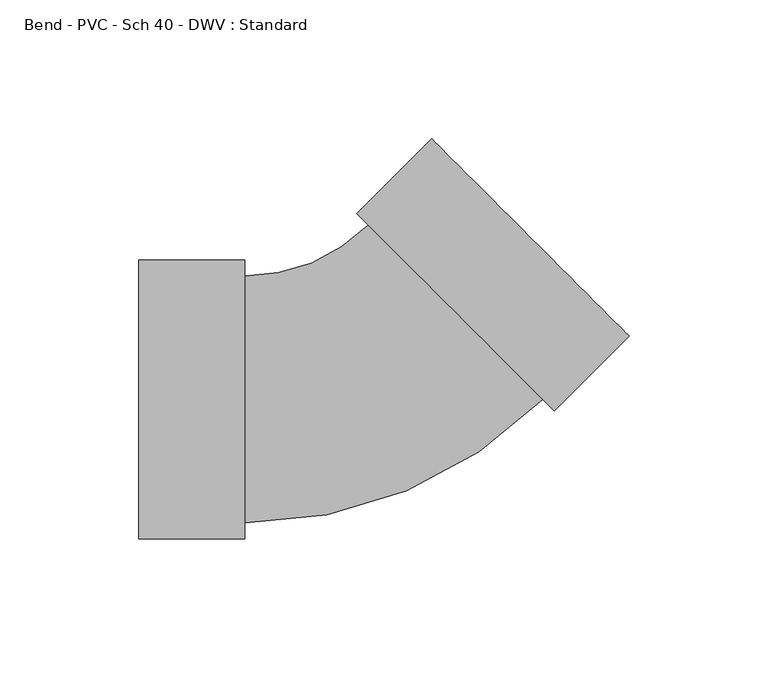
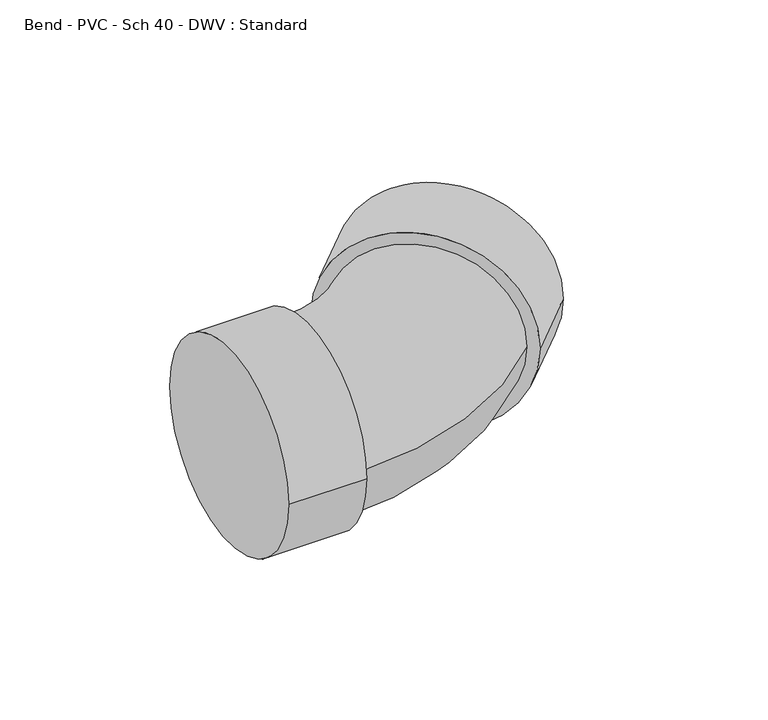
"""IFC4 building model written with IfcOpenShell, lengths in millimetres: pipe fitting geometry, Bend - PVC - Sch 40 - DWV : Standard."""

import ifcopenshell
import ifcopenshell.guid

model = None  # the IFC model being written
_history = None  # IfcOwnerHistory: only IFC2X3 demands one
_inside = {}  # id of a spatial element -> (the spatial element, [elements in it])
_under = {}  # id of a project, library or spatial element -> (it, [spatial elements below it])
_declared = {}  # id of a project -> (the project, [libraries it declares])
_typed = {}  # id of a type object -> (the type object, [elements of that type])
_made_of = {}  # id of a material, layer set ... -> (it, [elements and type objects made of it])


def new_model(schema):
    """Start an empty IFC model of exactly this schema.

    Asked for "IFC4X3", IfcOpenShell would pick the latest addendum, in which some entities
    have other attributes; the version numbers below select the first issue.
    IFC2X3 requires an IfcOwnerHistory on every rooted entity: one is made here for all.
    """
    global model, _history
    if schema == "IFC4X3":
        model = ifcopenshell.file(schema_version=(4, 3, 0, 0))
    else:
        model = ifcopenshell.file(schema=schema)
    _inside.clear()
    _under.clear()
    _declared.clear()
    _typed.clear()
    _made_of.clear()
    _history = None
    if model.schema == "IFC2X3":
        org = make("IfcOrganization", Name="unknown")
        user = make(
            "IfcPersonAndOrganization",
            ThePerson=make("IfcPerson", FamilyName="unknown"),
            TheOrganization=org,
        )
        app = make(
            "IfcApplication",
            ApplicationDeveloper=org,
            Version="unknown",
            ApplicationFullName="unknown",
            ApplicationIdentifier="unknown",
        )
        _history = make(
            "IfcOwnerHistory",
            OwningUser=user,
            OwningApplication=app,
            ChangeAction="ADDED",
            CreationDate=0,
        )
    return model


def make(cls, **values):
    """One entity of the class cls with the attributes given. An attribute that is None is left unset."""
    return model.create_entity(
        cls, **{name: value for name, value in values.items() if value is not None}
    )


def rooted(cls, **values):
    """An entity with a GlobalId (a new one), such as an element, a storey or a relation."""
    return make(cls, GlobalId=ifcopenshell.guid.new(), OwnerHistory=_history, **values)


def si_unit(unit_type, name, prefix=None):
    """IfcSIUnit, for example si_unit("LENGTHUNIT", "METRE", prefix="MILLI")."""
    return make("IfcSIUnit", UnitType=unit_type, Prefix=prefix, Name=name)


def assignment(units):
    """IfcUnitAssignment: the units of a project."""
    return None if units is None else make("IfcUnitAssignment", Units=units)


def point(xyz):
    """IfcCartesianPoint."""
    return None if xyz is None else make("IfcCartesianPoint", Coordinates=xyz)


def direction(xyz):
    """IfcDirection."""
    return None if xyz is None else make("IfcDirection", DirectionRatios=xyz)


def frame(location, z_axis=None, x_axis=None):
    """IfcAxis2Placement3D, a coordinate frame: its origin and axes. An axis left out is left unset."""
    return make(
        "IfcAxis2Placement3D",
        Location=point(location),
        Axis=direction(z_axis),
        RefDirection=direction(x_axis),
    )


def origin():
    """The frame at (0, 0, 0) with its axes left unset."""
    return frame((0.0, 0.0, 0.0))


def place(relative_to, where):
    """IfcLocalPlacement: puts the frame where relative to a parent placement (None: the world)."""
    return make(
        "IfcLocalPlacement", PlacementRelTo=relative_to, RelativePlacement=where
    )


def context(
    kind, dimensions, precision=None, world=None, true_north=None, identifier=None
):
    """IfcGeometricRepresentationContext, for example the 3D "Model" context."""
    return make(
        "IfcGeometricRepresentationContext",
        ContextIdentifier=identifier,
        ContextType=kind,
        CoordinateSpaceDimension=dimensions,
        Precision=precision,
        WorldCoordinateSystem=world,
        TrueNorth=true_north,
    )


def project(units=None, contexts=None):
    """IfcProject with its units and contexts."""
    return rooted(
        "IfcProject",
        Name="project",
        RepresentationContexts=contexts,
        UnitsInContext=assignment(units),
    )


def spatial(cls, under=None, at=None, **own):
    """A site, building, storey or space (cls), placed at a placement, below another one or the project."""
    s = rooted(cls, ObjectPlacement=at, **own)
    if under is not None:
        _under.setdefault(under.id(), (under, []))[1].append(s)
    return s


def circle_curve(where, radius):
    """IfcCircle in the frame where."""
    return make("IfcCircle", Position=where, Radius=radius)


def ellipse_curve(where, semi_axis1, semi_axis2):
    """IfcEllipse in the frame where."""
    return make(
        "IfcEllipse", Position=where, SemiAxis1=semi_axis1, SemiAxis2=semi_axis2
    )


def trimmed(basis, trim1, trim2, sense, master):
    """IfcTrimmedCurve: the piece of a basis curve between two trims."""
    return make(
        "IfcTrimmedCurve",
        BasisCurve=basis,
        Trim1=trim1,
        Trim2=trim2,
        SenseAgreement=sense,
        MasterRepresentation=master,
    )


def shape(context_of_items, identifier, shape_type, items):
    """IfcShapeRepresentation: the items that make up one representation, for example the "Body"."""
    return make(
        "IfcShapeRepresentation",
        ContextOfItems=context_of_items,
        RepresentationIdentifier=identifier,
        RepresentationType=shape_type,
        Items=items,
    )


def source(mapping_origin, context_of_items, identifier, shape_type, items):
    """IfcRepresentationMap: a shape defined once, which mapped items show again and again."""
    return make(
        "IfcRepresentationMap",
        MappingOrigin=mapping_origin,
        MappedRepresentation=shape(context_of_items, identifier, shape_type, items),
    )


def transform(
    local_origin,
    x_axis=None,
    y_axis=None,
    z_axis=None,
    scale=None,
    scale2=None,
    scale3=None,
    uniform=True,
):
    """IfcCartesianTransformationOperator3D, or its non-uniform kind. x_axis, y_axis, z_axis: its Axis1, 2, 3."""
    if uniform:
        return make(
            "IfcCartesianTransformationOperator3D",
            Axis1=direction(x_axis),
            Axis2=direction(y_axis),
            LocalOrigin=point(local_origin),
            Scale=scale,
            Axis3=direction(z_axis),
        )
    return make(
        "IfcCartesianTransformationOperator3DnonUniform",
        Axis1=direction(x_axis),
        Axis2=direction(y_axis),
        LocalOrigin=point(local_origin),
        Scale=scale,
        Axis3=direction(z_axis),
        Scale2=scale2,
        Scale3=scale3,
    )


def mapped(mapping_source, mapping_target):
    """IfcMappedItem: shows the shape of a source again, moved by a transform."""
    return make(
        "IfcMappedItem", MappingSource=mapping_source, MappingTarget=mapping_target
    )


def made_of(thing, what):
    """Note that an element or type object is made of a material, layer set ...; save() writes the relation."""
    if what is not None:
        _made_of.setdefault(what.id(), (what, []))[1].append(thing)
    return thing


def element(
    cls,
    number,
    at=None,
    inside=None,
    cuts=None,
    type_object=None,
    material=None,
    context=None,
    identifier="Body",
    shape_type=None,
    held_by="IfcProductDefinitionShape",
    body=None,
    shapes=None,
    **own,
):
    """One element of the class cls, such as IfcWall. Its Tag is "e" and its number.

    at: its placement. inside: the storey or other place that contains it. cuts: it is an
    opening in that element (IfcRelVoidsElement). A single representation is given by context,
    identifier, shape_type and body (its items); several are given by shapes. held_by: the class
    of the entity that holds the representations. save() writes the other relations.
    """
    e = rooted(cls, Tag="e%d" % number, ObjectPlacement=at, **own)
    if body is not None:
        shapes = [shape(context, identifier, shape_type, body)]
    if shapes is not None:
        e.Representation = make(held_by, Representations=shapes)
    if inside is not None:
        _inside.setdefault(inside.id(), (inside, []))[1].append(e)
    if cuts is not None:
        rooted(
            "IfcRelVoidsElement", RelatingBuildingElement=cuts, RelatedOpeningElement=e
        )
    if type_object is not None:
        _typed.setdefault(type_object.id(), (type_object, []))[1].append(e)
    return made_of(e, material)


def aggregate(whole, parts):
    """IfcRelAggregates: a whole, such as a stair, and the parts it consists of."""
    return rooted("IfcRelAggregates", RelatingObject=whole, RelatedObjects=parts)


def save(model, path):
    """Write the relations noted so far, then the file.

    IfcRelAggregates (storeys below a building ...), IfcRelContainedInSpatialStructure (elements
    in a storey), IfcRelDefinesByType, IfcRelAssociatesMaterial and IfcRelDeclares: one each for
    every whole, place, type object, material and project.
    """
    for whole, parts in _under.values():
        aggregate(whole, parts)
    for where, things in _inside.values():
        rooted(
            "IfcRelContainedInSpatialStructure",
            RelatedElements=things,
            RelatingStructure=where,
        )
    for kind, things in _typed.values():
        rooted("IfcRelDefinesByType", RelatedObjects=things, RelatingType=kind)
    for what, things in _made_of.values():
        rooted("IfcRelAssociatesMaterial", RelatedObjects=things, RelatingMaterial=what)
    for by, libraries in _declared.values():
        rooted("IfcRelDeclares", RelatingContext=by, RelatedDefinitions=libraries)
    model.write(path)


def plane_surface(at):
    """IfcPlane: the flat surface through the origin of the frame at, square to its z axis."""
    return make("IfcPlane", Position=at)


def cylinder_surface(at, radius):
    """IfcCylindricalSurface: all points at the distance radius from the z axis of the frame at."""
    return make("IfcCylindricalSurface", Position=at, Radius=radius)


def revolved_surface(curve, axis_point, axis_direction):
    """IfcSurfaceOfRevolution: the curve turned about the line through axis_point along axis_direction."""
    return make(
        "IfcSurfaceOfRevolution",
        SweptCurve=make("IfcArbitraryOpenProfileDef", ProfileType="CURVE", Curve=curve),
        AxisPosition=make("IfcAxis1Placement", Location=point(axis_point), Axis=direction(axis_direction)),
    )


def advanced_brep(points, edges, surfaces, faces):
    """IfcAdvancedBrep: a solid bounded by faces that lie on surfaces and meet in shared edges.

    An edge is (start, end): straight between two places in points (the first is 0);
    or (start, end, curve); or (start, end, curve, False) where it runs against its curve.
    A face is (place in surfaces, loops), or (place, loops, False) where it looks against
    its surface's normal. A loop lists edges by number (the first is 1), with a minus sign
    where the edge is run from its end to its start. The first loop is the outer one.
    """
    corners = [point(p) for p in points]
    vertices = [make("IfcVertexPoint", VertexGeometry=c) for c in corners]
    made = []
    for start, end, *more in edges:
        made.append(
            make(
                "IfcEdgeCurve",
                EdgeStart=vertices[start],
                EdgeEnd=vertices[end],
                EdgeGeometry=more[0] if more else make("IfcPolyline", Points=[corners[start], corners[end]]),
                SameSense=more[1] if len(more) > 1 else True,
            )
        )
    hull = []
    for where, loops, *sense in faces:
        bounds = []
        for j, loop in enumerate(loops):
            ring = [make("IfcOrientedEdge", EdgeElement=made[abs(k) - 1], Orientation=k > 0) for k in loop]
            bounds.append(
                make(
                    "IfcFaceOuterBound" if j == 0 else "IfcFaceBound",
                    Bound=make("IfcEdgeLoop", EdgeList=ring),
                    Orientation=True,
                )
            )
        hull.append(make("IfcAdvancedFace", Bounds=bounds, FaceSurface=surfaces[where], SameSense=sense[0] if sense else True))
    return make("IfcAdvancedBrep", Outer=make("IfcClosedShell", CfsFaces=hull))


def bend_pvc_sch_40_dwv_standard_021da87b(model_context):
    return source(origin(), model_context, "Body", "AdvancedBrep", [
        advanced_brep(
        [(-82.55, -50.2666, 0.0), (-82.55, 50.2666, 0.0), (-44.45, -50.2666, 0.0), (-44.45, 50.2666, 0.0), (-44.45, -44.45, 0.0), (-44.45, 44.45, 0.0), (0.0018014, 62.8617928, 0.0), (62.8617928, -0.0018014, 0.0), (66.9746323, -4.1148766, 0.0), (-4.111038, 66.974868, 0.0), (93.9161726, 22.8251197, 0.0), (22.8305024, 93.9148643, 0.0)],
        [
            (0, 1, circle_curve(frame((-82.55, 0.0, 0.0), z_axis=(-1.0, 0.0, 0.0), x_axis=(0.0, 1.0, 0.0)), 50.2666)),
            (1, 0, circle_curve(frame((-82.55, 0.0, 0.0), z_axis=(-1.0, 0.0, 0.0), x_axis=(0.0, 1.0, 0.0)), 50.2666)),
            (2, 3, circle_curve(frame((-44.45, 0.0, 0.0), z_axis=(1.0, 0.0, 0.0), x_axis=(0.0, 1.0, 0.0)), 50.2666)),
            (3, 2, circle_curve(frame((-44.45, 0.0, 0.0), z_axis=(1.0, 0.0, 0.0), x_axis=(0.0, 1.0, 0.0)), 50.2666)),
            (4, 5, circle_curve(frame((-44.45, 0.0, 0.0), z_axis=(-1.0, 0.0, 0.0), x_axis=(0.0, 1.0, 0.0)), 44.45)),
            (5, 4, circle_curve(frame((-44.45, 0.0, 0.0), z_axis=(-1.0, 0.0, 0.0), x_axis=(0.0, 1.0, 0.0)), 44.45)),
            (0, 2),
            (3, 1),
            (6, 5, circle_curve(frame((-44.45, 107.316142, 0.0), z_axis=(0.0, 0.0, -1.0), x_axis=(0.0, -1.0, 0.0)), 62.866142)),
            (4, 7, circle_curve(frame((-44.45, 107.316142, 0.0), z_axis=(0.0, 0.0, 1.0), x_axis=(0.0, -1.0, 0.0)), 151.766142)),
            (7, 6, circle_curve(frame((31.4317971, 31.4299957, 0.0), z_axis=(-0.7071270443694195, -0.7070865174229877, 0.0), x_axis=(-0.7070865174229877, 0.7071270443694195, 0.0)), 44.45)),
            (6, 7, circle_curve(frame((31.4317971, 31.4299957, 0.0), z_axis=(-0.7071270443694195, -0.7070865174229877, 0.0), x_axis=(-0.7070865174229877, 0.7071270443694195, 0.0)), 44.45)),
            (8, 9, circle_curve(frame((31.4317971, 31.4299957, 0.0), z_axis=(-0.7071270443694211, -0.7070865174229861, 0.0), x_axis=(-0.7070865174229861, 0.7071270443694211, 0.0)), 50.2666)),
            (9, 8, circle_curve(frame((31.4317971, 31.4299957, 0.0), z_axis=(-0.7071270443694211, -0.7070865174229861, 0.0), x_axis=(-0.7070865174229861, 0.7071270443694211, 0.0)), 50.2666)),
            (10, 11, circle_curve(frame((58.3733375, 58.369992, 0.0), z_axis=(0.7071270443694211, 0.7070865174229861, 0.0), x_axis=(-0.7070865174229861, 0.7071270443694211, 0.0)), 50.2666)),
            (11, 10, circle_curve(frame((58.3733375, 58.369992, 0.0), z_axis=(0.7071270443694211, 0.7070865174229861, 0.0), x_axis=(-0.7070865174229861, 0.7071270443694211, 0.0)), 50.2666)),
            (8, 10),
            (11, 9),
        ],
        [
            plane_surface(frame((-82.55, 0.0, 0.0), z_axis=(-1.0, 0.0, 0.0), x_axis=(0.0, 0.0, 1.0))),
            plane_surface(frame((-44.45, 0.0, 0.0), z_axis=(1.0, 0.0, 0.0), x_axis=(0.0, 0.0, 1.0))),
            cylinder_surface(frame((-82.55, 0.0, 0.0), z_axis=(-1.0, 0.0, 0.0), x_axis=(0.0, 1.0, 0.0)), 50.2666),
            revolved_surface(trimmed(ellipse_curve(frame((-44.45, 0.0, 0.0), z_axis=(-1.0, 0.0, 0.0), x_axis=(0.0, 1.0, 0.0)), 44.45, 44.45), [point((-44.45, -44.45, 0.0))], [point((-44.45, 44.45, 0.0))], True, "CARTESIAN"), (-44.45, 107.316142, 0.0), (0.0, 0.0, 1.0)),
            revolved_surface(trimmed(ellipse_curve(frame((-44.45, 0.0, 0.0), z_axis=(-1.0, 0.0, 0.0), x_axis=(0.0, 1.0, 0.0)), 44.45, 44.45), [point((-44.45, 44.45, 0.0))], [point((-44.45, -44.45, 0.0))], True, "CARTESIAN"), (-44.45, 107.316142, 0.0), (0.0, 0.0, 1.0)),
            plane_surface(frame((31.4317971, 31.4299957, 0.0), z_axis=(-0.7071270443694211, -0.7070865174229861, 0.0), x_axis=(0.0, 0.0, 1.0))),
            plane_surface(frame((58.3733375, 58.369992, 0.0), z_axis=(0.7071270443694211, 0.7070865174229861, 0.0), x_axis=(0.0, 0.0, 1.0))),
            cylinder_surface(frame((31.4317971, 31.4299957, 0.0), z_axis=(-0.7071270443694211, -0.7070865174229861, 0.0), x_axis=(-0.7070865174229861, 0.7071270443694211, 0.0)), 50.2666),
        ],
        [
            (0, [[1, 2]]),
            (1, [[3, 4], [5, 6]]),
            (2, [[-1, 7, -4, 8]]),
            (2, [[-2, -8, -3, -7]]),
            (3, [[9, -5, 10, 11]]),
            (4, [[-9, 12, -10, -6]]),
            (5, [[13, 14], [-11, -12]]),
            (6, [[15, 16]]),
            (7, [[-13, 17, -16, 18]]),
            (7, [[-14, -18, -15, -17]]),
        ],
    ),
    ])


if __name__ == "__main__":
    model = new_model("IFC4")
    model_context = context("Model", 3, world=origin())
    ifc_project = project(units=[si_unit("LENGTHUNIT", "METRE", prefix="MILLI")], contexts=[model_context])
    site = spatial("IfcSite", under=ifc_project)
    building = spatial("IfcBuilding", under=site)
    placement = place(None, origin())
    bend_pvc_sch_40_dwv_standard_shape = bend_pvc_sch_40_dwv_standard_021da87b(model_context)
    element("IfcPipeFitting", 1, ObjectType="Bend - PVC - Sch 40 - DWV : Standard", at=placement, inside=building, context=model_context, shape_type="MappedRepresentation", body=[
        mapped(bend_pvc_sch_40_dwv_standard_shape, transform((0.0, 0.0, 0.0), x_axis=(1.0, 0.0, 0.0), y_axis=(0.0, 1.0, 0.0), z_axis=(0.0, 0.0, 1.0))),
    ])
    save(model, "model.ifc")
